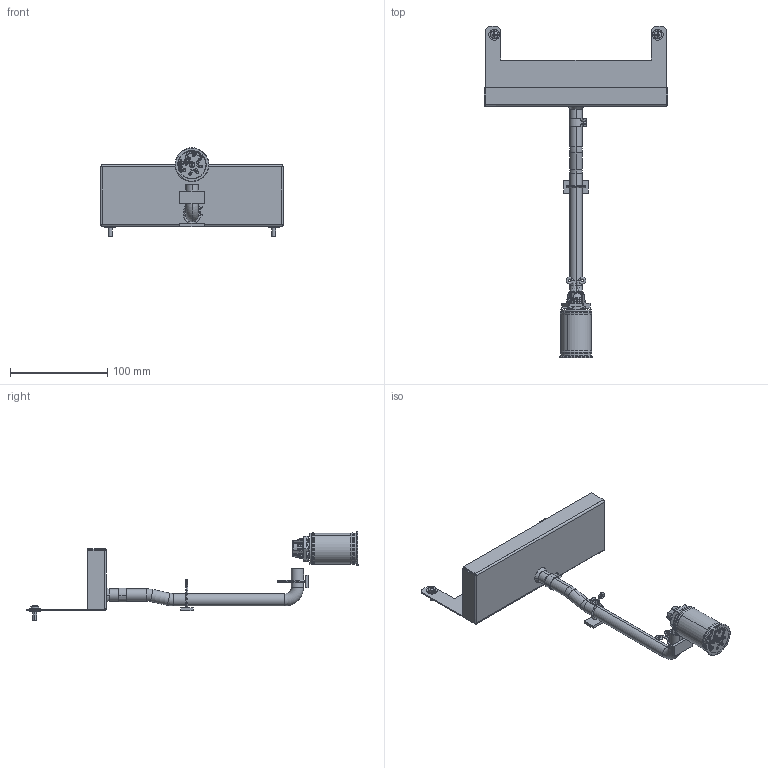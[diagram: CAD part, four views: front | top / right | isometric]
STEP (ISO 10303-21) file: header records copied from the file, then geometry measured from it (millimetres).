
FILE_DESCRIPTION (( 'STEP AP203' ), '1' );
FILE_NAME ('tec200wcmnm.STEP', '2015-07-13T19:59:53', ( '' ), ( '' ), 'SwSTEP 2.0', 'SolidWorks 2010', '' );
FILE_SCHEMA (( 'CONFIG_CONTROL_DESIGN' ));
Products named in the file (15): tec200wcmnm; 89084699; 89084702; 36-5000-08; 89085756; 87935042; 87937284; 87934633; 87934629_EXPLODED; 87934623; 87934627; 87934625; 52-6142-00; 26132002_26132002; H4M4012D2C
Assembly tree (19 placements, depth 3):
  tec200wcmnm
    H4M4012D2C  x2
    26132002_26132002  x4
    87937284
    89084699
      89084702
      36-5000-08
    87934629_EXPLODED
      87934625
      87934623
      87934627
    89085756
    87935042  x2
    52-6142-00
    87934633
Bounding box: 188.91 x 341.07 x 90.87 mm (x, y, z)
Volume: 81922.1 mm3; surface area: 97317.2 mm2
Topology: 19 solids, 19 shells, 1078 faces, 2790 edges, 1792 vertices
Faces by surface type: plane 435, bspline 252, cylinder 185, torus 111, cone 91, sphere 4
Entity records: 47352 total; most frequent: CARTESIAN_POINT 22683, ORIENTED_EDGE 5244, DIRECTION 3977, EDGE_CURVE 2622, VERTEX_POINT 1691, VECTOR 1383, LINE 1383, AXIS2_PLACEMENT_3D 1297
